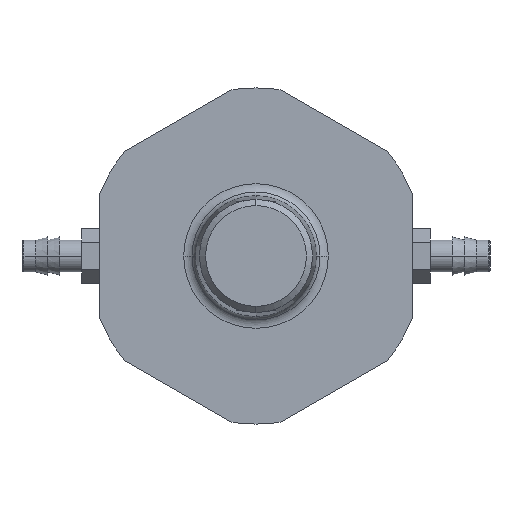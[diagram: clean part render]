
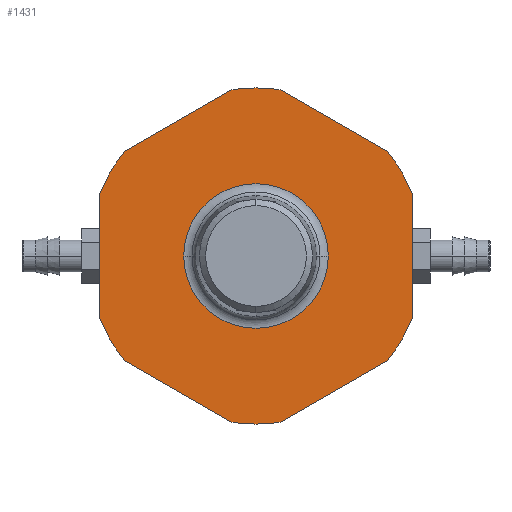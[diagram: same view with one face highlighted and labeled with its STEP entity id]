
A CAD part, left-side view. The second image highlights one B-rep face of the part: STEP entity #1431.
In plain terms, the highlighted planar face has unit normal (-1, 0, 0).
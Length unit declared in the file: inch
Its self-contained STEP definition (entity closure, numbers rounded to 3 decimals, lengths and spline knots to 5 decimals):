
#965=CARTESIAN_POINT('',(-2.875,0.,0.));
#966=DIRECTION('',(-1.,0.,0.));
#967=DIRECTION('',(0.,0.143,-0.99));
#968=AXIS2_PLACEMENT_3D('',#965,#966,#967);
#970=DIRECTION('',(0.,-0.866,-0.5));
#971=VECTOR('',#970,0.64952);
#972=CARTESIAN_POINT('',(-2.875,0.6875,-0.54127));
#973=LINE('',#972,#971);
#974=CARTESIAN_POINT('',(-2.875,0.,0.));
#975=DIRECTION('',(-1.,0.,0.));
#976=DIRECTION('',(0.,0.866,-0.5));
#977=AXIS2_PLACEMENT_3D('',#974,#975,#976);
#979=CARTESIAN_POINT('',(-2.875,0.,0.));
#980=DIRECTION('',(-1.,0.,0.));
#981=DIRECTION('',(0.,0.929,-0.371));
#982=AXIS2_PLACEMENT_3D('',#979,#980,#981);
#984=DIRECTION('',(0.,0.,-1.));
#985=VECTOR('',#984,0.64952);
#986=CARTESIAN_POINT('',(-2.875,0.8125,0.32476));
#987=LINE('',#986,#985);
#988=CARTESIAN_POINT('',(-2.875,0.,0.));
#989=DIRECTION('',(-1.,0.,0.));
#990=DIRECTION('',(0.,0.866,0.5));
#991=AXIS2_PLACEMENT_3D('',#988,#989,#990);
#993=CARTESIAN_POINT('',(-2.875,0.,0.));
#994=DIRECTION('',(-1.,0.,0.));
#995=DIRECTION('',(0.,0.786,0.619));
#996=AXIS2_PLACEMENT_3D('',#993,#994,#995);
#998=DIRECTION('',(0.,0.866,-0.5));
#999=VECTOR('',#998,0.64952);
#1000=CARTESIAN_POINT('',(-2.875,0.125,0.86603));
#1001=LINE('',#1000,#999);
#1002=CARTESIAN_POINT('',(-2.875,0.,0.));
#1003=DIRECTION('',(-1.,0.,0.));
#1004=DIRECTION('',(0.,0.,1.));
#1005=AXIS2_PLACEMENT_3D('',#1002,#1003,#1004);
#1007=CARTESIAN_POINT('',(-2.875,0.,0.));
#1008=DIRECTION('',(-1.,0.,0.));
#1009=DIRECTION('',(0.,-0.143,0.99));
#1010=AXIS2_PLACEMENT_3D('',#1007,#1008,#1009);
#1012=DIRECTION('',(0.,0.866,0.5));
#1013=VECTOR('',#1012,0.64952);
#1014=CARTESIAN_POINT('',(-2.875,-0.6875,0.54127));
#1015=LINE('',#1014,#1013);
#1016=CARTESIAN_POINT('',(-2.875,0.,0.));
#1017=DIRECTION('',(-1.,0.,0.));
#1018=DIRECTION('',(0.,-0.866,0.5));
#1019=AXIS2_PLACEMENT_3D('',#1016,#1017,#1018);
#1021=CARTESIAN_POINT('',(-2.875,0.,0.));
#1022=DIRECTION('',(-1.,0.,0.));
#1023=DIRECTION('',(0.,-0.929,0.371));
#1024=AXIS2_PLACEMENT_3D('',#1021,#1022,#1023);
#1026=DIRECTION('',(0.,0.,1.));
#1027=VECTOR('',#1026,0.64952);
#1028=CARTESIAN_POINT('',(-2.875,-0.8125,-0.32476));
#1029=LINE('',#1028,#1027);
#1030=CARTESIAN_POINT('',(-2.875,0.,0.));
#1031=DIRECTION('',(-1.,0.,0.));
#1032=DIRECTION('',(0.,-0.866,-0.5));
#1033=AXIS2_PLACEMENT_3D('',#1030,#1031,#1032);
#1035=CARTESIAN_POINT('',(-2.875,0.,0.));
#1036=DIRECTION('',(-1.,0.,0.));
#1037=DIRECTION('',(0.,-0.786,-0.619));
#1038=AXIS2_PLACEMENT_3D('',#1035,#1036,#1037);
#1040=DIRECTION('',(0.,-0.866,0.5));
#1041=VECTOR('',#1040,0.64952);
#1042=CARTESIAN_POINT('',(-2.875,-0.125,-0.86603));
#1043=LINE('',#1042,#1041);
#1044=CARTESIAN_POINT('',(-2.875,0.,0.));
#1045=DIRECTION('',(-1.,0.,0.));
#1046=DIRECTION('',(0.,0.,-1.));
#1047=AXIS2_PLACEMENT_3D('',#1044,#1045,#1046);
#1049=CARTESIAN_POINT('',(-2.875,0.,0.));
#1050=DIRECTION('',(1.,0.,0.));
#1051=DIRECTION('',(0.,0.,1.));
#1052=AXIS2_PLACEMENT_3D('',#1049,#1050,#1051);
#1054=CARTESIAN_POINT('',(-2.875,0.,0.));
#1055=DIRECTION('',(1.,0.,0.));
#1056=DIRECTION('',(0.,1.,0.));
#1057=AXIS2_PLACEMENT_3D('',#1054,#1055,#1056);
#1059=CARTESIAN_POINT('',(-2.875,0.,0.));
#1060=DIRECTION('',(1.,0.,0.));
#1061=DIRECTION('',(0.,-1.,0.));
#1062=AXIS2_PLACEMENT_3D('',#1059,#1060,#1061);
#1282=CARTESIAN_POINT('',(-2.875,0.,-0.875));
#1283=CARTESIAN_POINT('',(-2.875,-0.125,-0.86603));
#1284=VERTEX_POINT('',#1282);
#1285=VERTEX_POINT('',#1283);
#1286=CARTESIAN_POINT('',(-2.875,0.125,-0.86603));
#1287=VERTEX_POINT('',#1286);
#1292=CARTESIAN_POINT('',(-2.875,-0.6875,-0.54127));
#1293=VERTEX_POINT('',#1292);
#1294=CARTESIAN_POINT('',(-2.875,0.6875,-0.54127));
#1295=VERTEX_POINT('',#1294);
#1300=CARTESIAN_POINT('',(-2.875,-0.75777,-0.4375));
#1301=CARTESIAN_POINT('',(-2.875,-0.8125,-0.32476));
#1302=VERTEX_POINT('',#1300);
#1303=VERTEX_POINT('',#1301);
#1304=CARTESIAN_POINT('',(-2.875,0.75777,-0.4375));
#1305=VERTEX_POINT('',#1304);
#1306=CARTESIAN_POINT('',(-2.875,0.8125,-0.32476));
#1307=VERTEX_POINT('',#1306);
#1314=CARTESIAN_POINT('',(-2.875,-0.8125,0.32476));
#1315=VERTEX_POINT('',#1314);
#1316=CARTESIAN_POINT('',(-2.875,0.8125,0.32476));
#1317=VERTEX_POINT('',#1316);
#1324=CARTESIAN_POINT('',(-2.875,-0.75777,0.4375));
#1325=CARTESIAN_POINT('',(-2.875,-0.6875,0.54127));
#1326=VERTEX_POINT('',#1324);
#1327=VERTEX_POINT('',#1325);
#1328=CARTESIAN_POINT('',(-2.875,0.75777,0.4375));
#1329=VERTEX_POINT('',#1328);
#1330=CARTESIAN_POINT('',(-2.875,0.6875,0.54127));
#1331=VERTEX_POINT('',#1330);
#1338=CARTESIAN_POINT('',(-2.875,-0.125,0.86603));
#1339=VERTEX_POINT('',#1338);
#1340=CARTESIAN_POINT('',(-2.875,0.125,0.86603));
#1341=VERTEX_POINT('',#1340);
#1348=CARTESIAN_POINT('',(-2.875,0.,0.875));
#1349=VERTEX_POINT('',#1348);
#1362=CARTESIAN_POINT('',(-2.875,0.37658,0.));
#1363=VERTEX_POINT('',#1362);
#1364=CARTESIAN_POINT('',(-2.875,-0.37658,0.));
#1365=VERTEX_POINT('',#1364);
#1366=CARTESIAN_POINT('',(-2.875,0.,0.37658));
#1367=VERTEX_POINT('',#1366);
#1380=CARTESIAN_POINT('',(-2.875,0.,0.));
#1381=DIRECTION('',(-1.,0.,0.));
#1382=DIRECTION('',(0.,0.,1.));
#1383=AXIS2_PLACEMENT_3D('',#1380,#1381,#1382);
#1384=PLANE('',#1383);
#1386=ORIENTED_EDGE('',*,*,#1385,.F.);
#1388=ORIENTED_EDGE('',*,*,#1387,.F.);
#1390=ORIENTED_EDGE('',*,*,#1389,.F.);
#1392=ORIENTED_EDGE('',*,*,#1391,.F.);
#1394=ORIENTED_EDGE('',*,*,#1393,.F.);
#1396=ORIENTED_EDGE('',*,*,#1395,.F.);
#1398=ORIENTED_EDGE('',*,*,#1397,.F.);
#1400=ORIENTED_EDGE('',*,*,#1399,.F.);
#1402=ORIENTED_EDGE('',*,*,#1401,.F.);
#1404=ORIENTED_EDGE('',*,*,#1403,.F.);
#1406=ORIENTED_EDGE('',*,*,#1405,.F.);
#1408=ORIENTED_EDGE('',*,*,#1407,.F.);
#1410=ORIENTED_EDGE('',*,*,#1409,.F.);
#1412=ORIENTED_EDGE('',*,*,#1411,.F.);
#1414=ORIENTED_EDGE('',*,*,#1413,.F.);
#1416=ORIENTED_EDGE('',*,*,#1415,.F.);
#1418=ORIENTED_EDGE('',*,*,#1417,.F.);
#1420=ORIENTED_EDGE('',*,*,#1419,.F.);
#1421=EDGE_LOOP('',(#1386,#1388,#1390,#1392,#1394,#1396,#1398,#1400,#1402,#1404,
#1406,#1408,#1410,#1412,#1414,#1416,#1418,#1420));
#1422=FACE_OUTER_BOUND('',#1421,.F.);
#1424=ORIENTED_EDGE('',*,*,#1423,.F.);
#1426=ORIENTED_EDGE('',*,*,#1425,.F.);
#1428=ORIENTED_EDGE('',*,*,#1427,.F.);
#1429=EDGE_LOOP('',(#1424,#1426,#1428));
#1430=FACE_BOUND('',#1429,.F.);
#969=CIRCLE('',#968,0.875);
#978=CIRCLE('',#977,0.875);
#983=CIRCLE('',#982,0.875);
#992=CIRCLE('',#991,0.875);
#997=CIRCLE('',#996,0.875);
#1006=CIRCLE('',#1005,0.875);
#1011=CIRCLE('',#1010,0.875);
#1020=CIRCLE('',#1019,0.875);
#1025=CIRCLE('',#1024,0.875);
#1034=CIRCLE('',#1033,0.875);
#1039=CIRCLE('',#1038,0.875);
#1048=CIRCLE('',#1047,0.875);
#1053=CIRCLE('',#1052,0.37658);
#1058=CIRCLE('',#1057,0.37658);
#1063=CIRCLE('',#1062,0.37658);
#1385=EDGE_CURVE('',#1287,#1284,#969,.T.);
#1387=EDGE_CURVE('',#1295,#1287,#973,.T.);
#1389=EDGE_CURVE('',#1305,#1295,#978,.T.);
#1391=EDGE_CURVE('',#1307,#1305,#983,.T.);
#1393=EDGE_CURVE('',#1317,#1307,#987,.T.);
#1395=EDGE_CURVE('',#1329,#1317,#992,.T.);
#1397=EDGE_CURVE('',#1331,#1329,#997,.T.);
#1399=EDGE_CURVE('',#1341,#1331,#1001,.T.);
#1401=EDGE_CURVE('',#1349,#1341,#1006,.T.);
#1403=EDGE_CURVE('',#1339,#1349,#1011,.T.);
#1405=EDGE_CURVE('',#1327,#1339,#1015,.T.);
#1407=EDGE_CURVE('',#1326,#1327,#1020,.T.);
#1409=EDGE_CURVE('',#1315,#1326,#1025,.T.);
#1411=EDGE_CURVE('',#1303,#1315,#1029,.T.);
#1413=EDGE_CURVE('',#1302,#1303,#1034,.T.);
#1415=EDGE_CURVE('',#1293,#1302,#1039,.T.);
#1417=EDGE_CURVE('',#1285,#1293,#1043,.T.);
#1419=EDGE_CURVE('',#1284,#1285,#1048,.T.);
#1423=EDGE_CURVE('',#1367,#1365,#1053,.T.);
#1425=EDGE_CURVE('',#1363,#1367,#1058,.T.);
#1427=EDGE_CURVE('',#1365,#1363,#1063,.T.);
#1431=ADVANCED_FACE('',(#1422,#1430),#1384,.T.);
